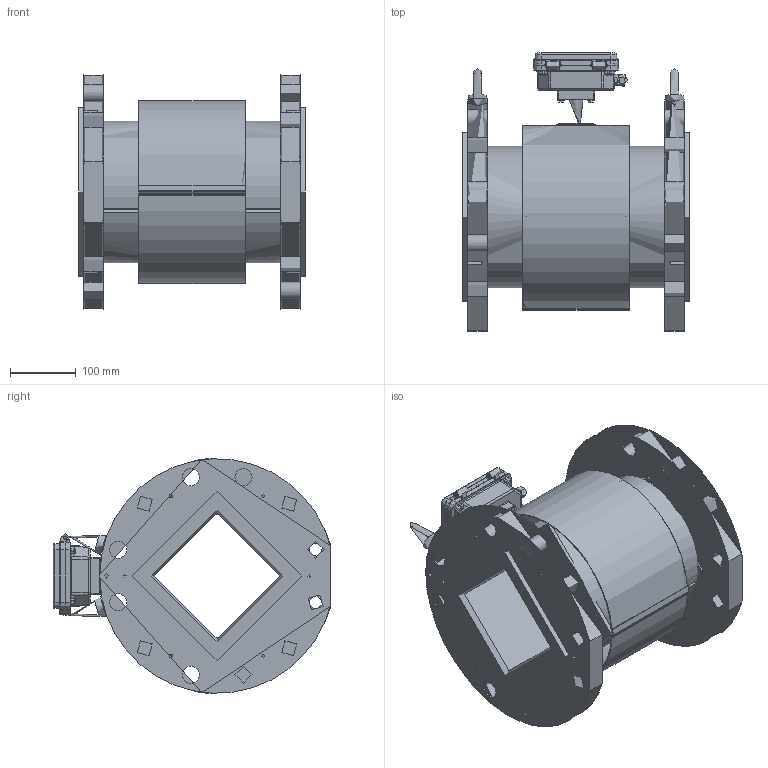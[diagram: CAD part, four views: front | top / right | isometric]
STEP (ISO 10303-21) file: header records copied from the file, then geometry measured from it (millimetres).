
FILE_DESCRIPTION(('STEP AP214'), '1');
FILE_NAME('Âçëåò ÝÐ ÏÐÎÔÈ DN200 Ôëàíåö', '', ('UNSPECIFIED'), ('UNSPECIFIED'), 'ASCON STEP Converter 1.6', 'ASCON Math Kernel', '');
FILE_SCHEMA(('AUTOMOTIVE_DESIGN { 1 0 10303 214 3 1 1}'));
Length unit declared in the file: millimetre
Products named in the file (1): 婽挭.407212.031-031.13
Bounding box: 344 x 421.94 x 355.8 mm (x, y, z)
Topology: 16 solids, 21 shells, 1180 faces, 2833 edges, 1721 vertices
Faces by surface type: plane 427, cylinder 397, cone 175, torus 130, bspline 51
Full cylindrical faces by diameter (mm): 0.8 x2, 2 x2, 3 x4, 3.242 x14, 3.3 x2, 4 x10, 4.134 x6, 4.2 x1, 4.917 x12, 5 x4, 5.3 x3, 5.5 x4, 6 x4, 6.3 x2, 7 x4, 7.5 x2, 8 x4, 10 x4, 10.106 x1, 12 x10, 12.5 x2, 16.5 x2, 18 x1, 19 x1, 20 x1, 21 x1, 25 x1, 26 x24, 30 x1, 190 x1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
Entity records: 78713 total; most frequent: CARTESIAN_POINT 37632, DIRECTION 5714, ORIENTED_EDGE 4982, EDGE_CURVE 2491, AXIS2_PLACEMENT_3D 2308, VERTEX_POINT 1676, EDGE_LOOP 1625, FACE_BOUND 1205
